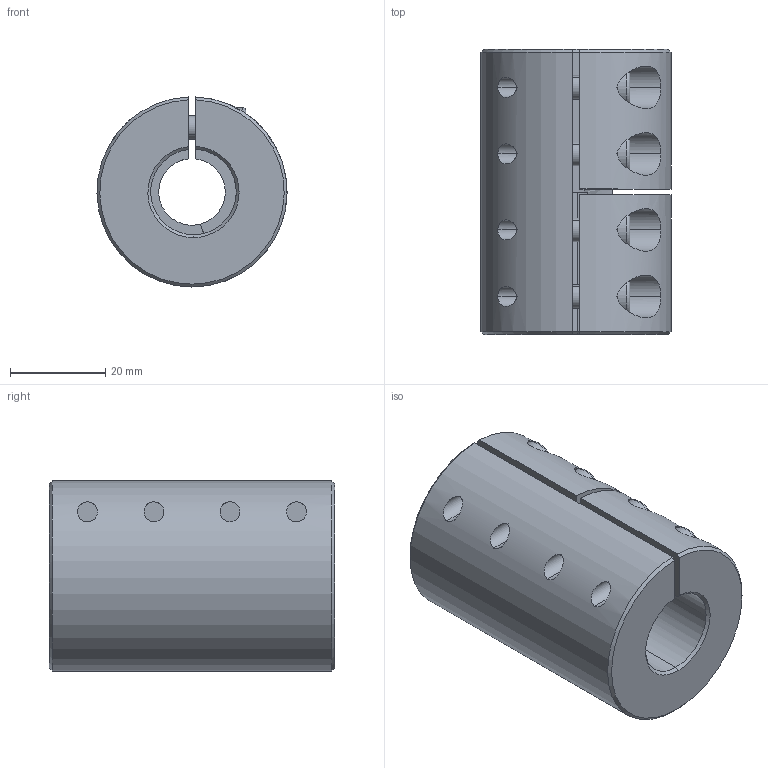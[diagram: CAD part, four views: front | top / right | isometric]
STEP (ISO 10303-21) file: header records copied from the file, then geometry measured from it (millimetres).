
FILE_DESCRIPTION (( 'STEP AP214' ), '1' );
FILE_NAME ('LL-B-D40L60-14-18½¨Ä£.STEP', '2022-07-22T01:01:21', ( '' ), ( '' ), 'SwSTEP 2.0', 'SolidWorks 2022', '' );
FILE_SCHEMA (( 'AUTOMOTIVE_DESIGN' ));
Length unit declared in the file: millimetre
Products named in the file (1): LL-B-D40L60-14-18膘耀
Bounding box: 40 x 60 x 39.99 mm (x, y, z)
Volume: 60034.8 mm3; surface area: 17309.3 mm2
Topology: 1 solids, 1 shells, 176 faces, 444 edges, 278 vertices
Faces by surface type: plane 84, cylinder 70, cone 14, torus 8
Entity records: 5801 total; most frequent: CARTESIAN_POINT 1475, DIRECTION 941, ORIENTED_EDGE 872, EDGE_CURVE 436, AXIS2_PLACEMENT_3D 368, VERTEX_POINT 278, EDGE_LOOP 208, VECTOR 205
